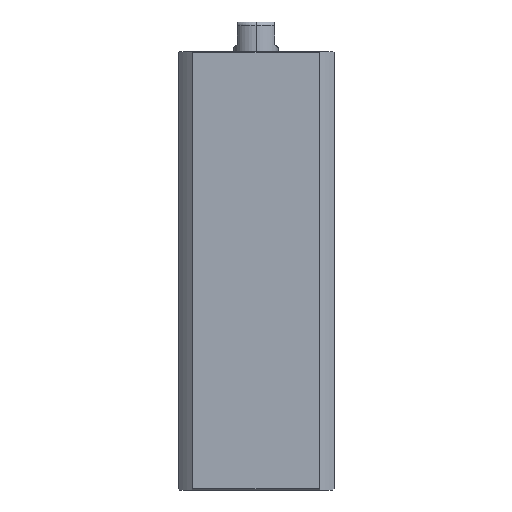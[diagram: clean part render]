
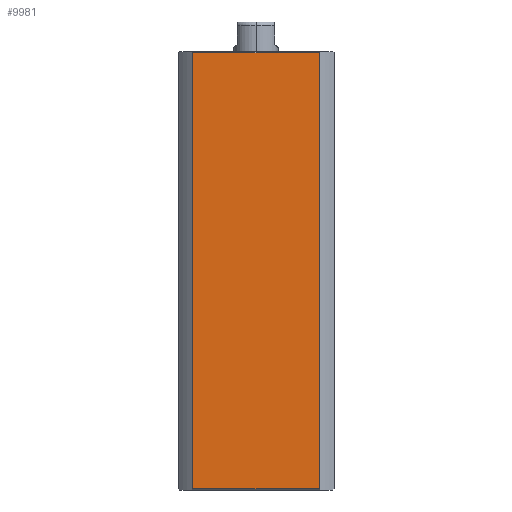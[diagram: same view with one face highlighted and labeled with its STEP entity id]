
A CAD part, left-side view. The second image highlights one B-rep face of the part: STEP entity #9981.
In plain terms, the highlighted planar face has unit normal (-1, 0, 0).
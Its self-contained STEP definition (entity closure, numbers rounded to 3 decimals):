
#387 = CARTESIAN_POINT ( 'NONE',  ( -21., -16.971, 0.3 ) ) ;
#425 = VERTEX_POINT ( 'NONE', #387 ) ;
#697 = CARTESIAN_POINT ( 'NONE',  ( -21., 16.971, 117.7 ) ) ;
#1118 = DIRECTION ( 'NONE',  ( 0., 1., 0. ) ) ;
#1312 = VECTOR ( 'NONE', #6136, 1000. ) ;
#2065 = CARTESIAN_POINT ( 'NONE',  ( -21., 21., 117.7 ) ) ;
#2125 = EDGE_LOOP ( 'NONE', ( #9812, #9676, #8121, #10842 ) ) ;
#2394 = CARTESIAN_POINT ( 'NONE',  ( -21., 16.971, -182. ) ) ;
#2699 = EDGE_CURVE ( 'NONE', #6234, #425, #3855, .T. ) ;
#3143 = DIRECTION ( 'NONE',  ( 1., 0., 0. ) ) ;
#3855 = LINE ( 'NONE', #9885, #1312 ) ;
#4094 = DIRECTION ( 'NONE',  ( 0., 0., -1. ) ) ;
#4904 = VECTOR ( 'NONE', #4094, 1000. ) ;
#5155 = EDGE_CURVE ( 'NONE', #7589, #9206, #8507, .T. ) ;
#5378 = CARTESIAN_POINT ( 'NONE',  ( -21., -16.971, 117.7 ) ) ;
#5980 = VECTOR ( 'NONE', #6066, 1000. ) ;
#6004 = VECTOR ( 'NONE', #1118, 1000. ) ;
#6066 = DIRECTION ( 'NONE',  ( 0., 0., 1. ) ) ;
#6136 = DIRECTION ( 'NONE',  ( 0., -1., 0. ) ) ;
#6234 = VERTEX_POINT ( 'NONE', #6328 ) ;
#6328 = CARTESIAN_POINT ( 'NONE',  ( -21., 16.971, 0.3 ) ) ;
#6817 = EDGE_CURVE ( 'NONE', #6234, #9206, #8476, .T. ) ;
#7344 = LINE ( 'NONE', #10636, #4904 ) ;
#7589 = VERTEX_POINT ( 'NONE', #5378 ) ;
#7652 = FACE_OUTER_BOUND ( 'NONE', #2125, .T. ) ;
#8121 = ORIENTED_EDGE ( 'NONE', *, *, #10016, .F. ) ;
#8476 = LINE ( 'NONE', #2394, #5980 ) ;
#8507 = LINE ( 'NONE', #2065, #6004 ) ;
#8740 = CARTESIAN_POINT ( 'NONE',  ( -21., 21., 118. ) ) ;
#9206 = VERTEX_POINT ( 'NONE', #697 ) ;
#9676 = ORIENTED_EDGE ( 'NONE', *, *, #2699, .T. ) ;
#9698 = DIRECTION ( 'NONE',  ( 0., 1., 0. ) ) ;
#9812 = ORIENTED_EDGE ( 'NONE', *, *, #6817, .F. ) ;
#9885 = CARTESIAN_POINT ( 'NONE',  ( -21., 21., 0.3 ) ) ;
#9981 = ADVANCED_FACE ( 'NONE', ( #7652 ), #11531, .F. ) ;
#10016 = EDGE_CURVE ( 'NONE', #7589, #425, #7344, .T. ) ;
#10636 = CARTESIAN_POINT ( 'NONE',  ( -21., -16.971, -182. ) ) ;
#10842 = ORIENTED_EDGE ( 'NONE', *, *, #5155, .T. ) ;
#11531 = PLANE ( 'NONE',  #11614 ) ;
#11614 = AXIS2_PLACEMENT_3D ( 'NONE', #8740, #3143, #9698 ) ;
